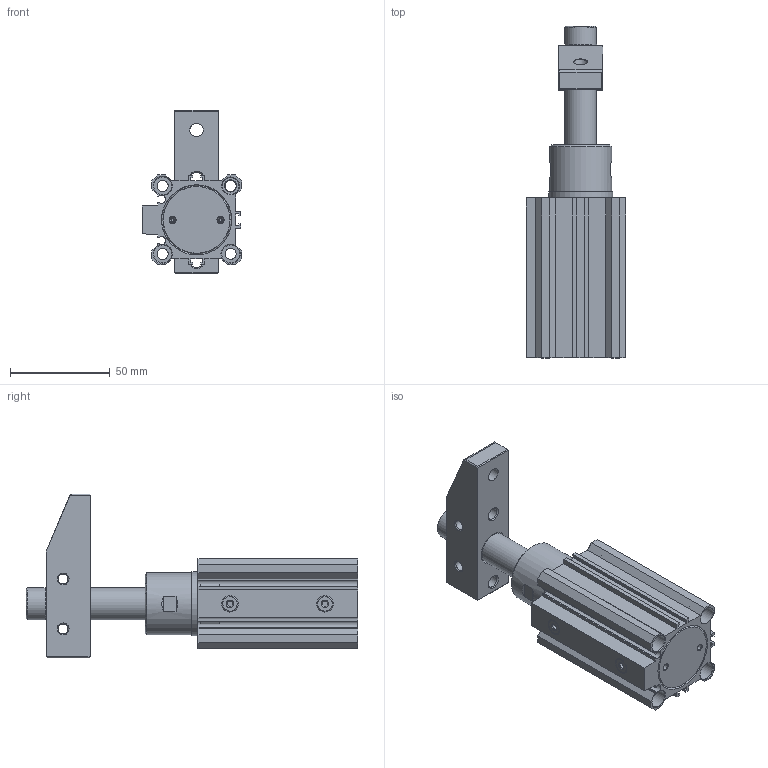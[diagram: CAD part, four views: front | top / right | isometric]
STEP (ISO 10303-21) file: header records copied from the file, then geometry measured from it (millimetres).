
FILE_DESCRIPTION(/* description */ ('STEP AP203'),/* implementation_level */ '2;1');
FILE_NAME(/* name */ 'E:\SERWER_ZAPAS\MODELE brakujace\PNEUMATIC\PB(STEP)\pbs-3感应式转角缸\PBS-32R_OTWARTY.stp',/* time_stamp */ '2019-02-01T15:01:41+01:00',/* author */ ('Admin'),/* organization */ ('Microsoft'),/* preprocessor_version */ 'ST-DEVELOPER v17.2',/* originating_system */ 'Autodesk Inventor 2019',/* authorisation */ '');
FILE_SCHEMA (('AUTOMOTIVE_DESIGN { 1 0 10303 214 3 1 1 }'));
Length unit declared in the file: millimetre
Products named in the file (10): PBS-32R_OTWARTY; s¸Ë_Ä¬ÈÏ; ±¾_Ä¬ÈÏ; Ñ¹±Û_Ä¬ÈÏ; µæÆ¬_Ä¬ÈÏ; »îÈû¸Ë_Ä¬ÈÏ; ºó_Ä¬ÈÏ; Ç°_Ä¬ÈÏ; m10_Ä¬ÈÏ; du_Ä¬ÈÏ
Assembly tree (11 placements, depth 2):
  PBS-32R_OTWARTY
    s¸Ë_Ä¬ÈÏ
    ±¾_Ä¬ÈÏ
    µæÆ¬_Ä¬ÈÏ  x2
    Ñ¹±Û_Ä¬ÈÏ
    du_Ä¬ÈÏ  x2
    »îÈû¸Ë_Ä¬ÈÏ
    ºó_Ä¬ÈÏ
    Ç°_Ä¬ÈÏ
    m10_Ä¬ÈÏ
Bounding box: 49.6 x 166 x 82 mm (x, y, z)
Volume: 151523 mm3; surface area: 91237.9 mm2
Topology: 11 solids, 14 shells, 461 faces, 1259 edges, 871 vertices
Faces by surface type: plane 192, cylinder 112, cone 99, torus 56, bspline 2
Full cylindrical faces by diameter (mm): 2 x5, 2.808 x2, 3 x2, 4 x5, 5 x2, 5.5 x3, 6.2 x2, 6.8 x1, 8.2 x4, 8.5 x1, 9 x8, 10 x2, 10.5 x1, 12 x4, 14.1 x2, 14.2 x2, 16 x4, 16.1 x2, 16.2 x2, 18 x1, 18.3 x1, 20.3 x1, 21 x1, 22 x2, 24 x4, 26 x3, 28 x2, 29 x3, 30 x1, 31 x2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
Entity records: 15843 total; most frequent: CARTESIAN_POINT 3459, DIRECTION 2739, ORIENTED_EDGE 2418, EDGE_CURVE 1209, AXIS2_PLACEMENT_3D 1122, VERTEX_POINT 837, CIRCLE 645, EDGE_LOOP 540
